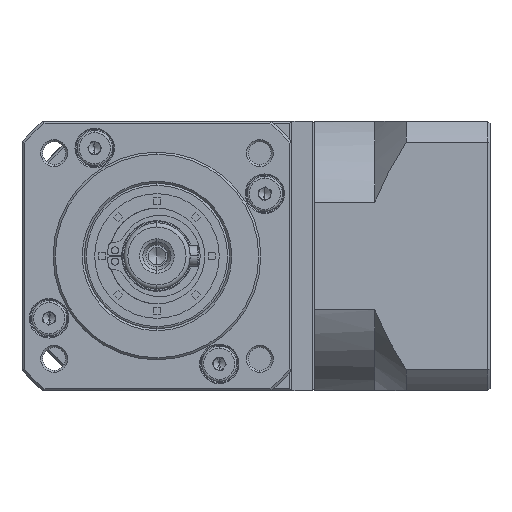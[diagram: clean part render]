
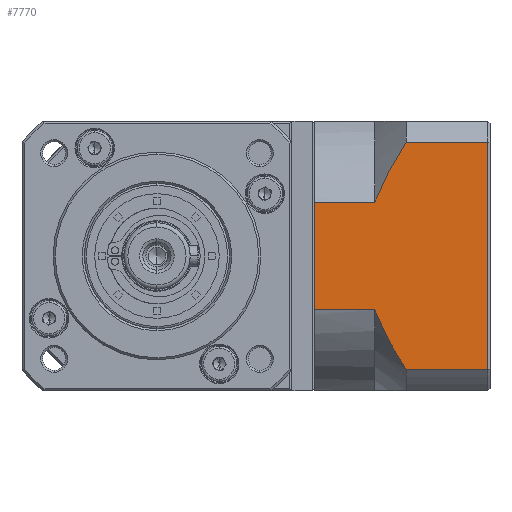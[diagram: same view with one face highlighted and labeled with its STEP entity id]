
A CAD part, left-side view. The second image highlights one B-rep face of the part: STEP entity #7770.
In plain terms, the highlighted planar face has unit normal (-1, 0, 0).
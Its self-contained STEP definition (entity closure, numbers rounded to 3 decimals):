
#7116 = CARTESIAN_POINT ( 'NONE',  ( -21.287, -85.487, -87.091 ) ) ;
#7136 = CARTESIAN_POINT ( 'NONE',  ( -21.287, -92.987, -141.863 ) ) ;
#7770 = ADVANCED_FACE ( 'NONE', ( #25730 ), #137054, .F. ) ;
#8525 = CARTESIAN_POINT ( 'NONE',  ( -21.287, -92.254, -88.229 ) ) ;
#9399 = CARTESIAN_POINT ( 'NONE',  ( -21.287, -86.504, -130.01 ) ) ;
#11839 = CARTESIAN_POINT ( 'NONE',  ( -21.287, -70.987, -127.467 ) ) ;
#22314 = CARTESIAN_POINT ( 'NONE',  ( -21.287, -87.628, -132.488 ) ) ;
#23175 = LINE ( 'NONE', #135476, #87425 ) ;
#24961 = CARTESIAN_POINT ( 'NONE',  ( -21.287, -85.487, -141.863 ) ) ;
#25434 = LINE ( 'NONE', #7116, #127976 ) ;
#25730 = FACE_OUTER_BOUND ( 'NONE', #142670, .T. ) ;
#25871 = CARTESIAN_POINT ( 'NONE',  ( -21.287, -85.487, -101.487 ) ) ;
#31249 = DIRECTION ( 'NONE',  ( 0., 1., 0. ) ) ;
#32848 = LINE ( 'NONE', #106684, #66837 ) ;
#34282 = CARTESIAN_POINT ( 'NONE',  ( -21.287, -90.154, -91.715 ) ) ;
#34520 = VERTEX_POINT ( 'NONE', #60298 ) ;
#35139 = CARTESIAN_POINT ( 'NONE',  ( -21.287, -90.138, -137.281 ) ) ;
#44624 = AXIS2_PLACEMENT_3D ( 'NONE', #59961, #149772, #72894 ) ;
#46824 = ORIENTED_EDGE ( 'NONE', *, *, #142145, .F. ) ;
#47096 = CARTESIAN_POINT ( 'NONE',  ( -21.287, -87.574, -96.497 ) ) ;
#47442 = CARTESIAN_POINT ( 'NONE',  ( -21.287, -85.487, -127.467 ) ) ;
#48005 = CARTESIAN_POINT ( 'NONE',  ( -21.287, -92.987, -141.863 ) ) ;
#50468 = VERTEX_POINT ( 'NONE', #75100 ) ;
#54846 = B_SPLINE_CURVE_WITH_KNOTS ( 'NONE', 3,
 ( #72369, #8525, #111349, #34282, #124242, #47096, #137070, #59982 ),
 .UNSPECIFIED., .F., .F.,
 ( 4, 2, 2, 4 ),
 ( 0.058, 0.062, 0.066, 0.074 ),
 .UNSPECIFIED. ) ;
#54876 = CARTESIAN_POINT ( 'NONE',  ( -21.287, -85.487, -127.467 ) ) ;
#55427 = ORIENTED_EDGE ( 'NONE', *, *, #135832, .T. ) ;
#59030 = ORIENTED_EDGE ( 'NONE', *, *, #69472, .T. ) ;
#59961 = CARTESIAN_POINT ( 'NONE',  ( -21.287, -113.187, -146.977 ) ) ;
#59982 = CARTESIAN_POINT ( 'NONE',  ( -21.287, -85.487, -101.487 ) ) ;
#60298 = CARTESIAN_POINT ( 'NONE',  ( -21.287, -70.987, -101.487 ) ) ;
#66837 = VECTOR ( 'NONE', #80086, 1000. ) ;
#67915 = CARTESIAN_POINT ( 'NONE',  ( -21.287, -70.987, -146.977 ) ) ;
#69472 = EDGE_CURVE ( 'NONE', #108936, #50468, #23175, .T. ) ;
#72369 = CARTESIAN_POINT ( 'NONE',  ( -21.287, -92.987, -87.091 ) ) ;
#72894 = DIRECTION ( 'NONE',  ( 0., 1., 0. ) ) ;
#75100 = CARTESIAN_POINT ( 'NONE',  ( -21.287, -112.687, -87.091 ) ) ;
#77366 = ORIENTED_EDGE ( 'NONE', *, *, #123816, .F. ) ;
#80086 = DIRECTION ( 'NONE',  ( 0., -1., 0. ) ) ;
#81038 = VECTOR ( 'NONE', #93871, 1000. ) ;
#83900 = ORIENTED_EDGE ( 'NONE', *, *, #121222, .T. ) ;
#85827 = LINE ( 'NONE', #148468, #153975 ) ;
#86241 = CARTESIAN_POINT ( 'NONE',  ( -21.287, -85.978, -128.748 ) ) ;
#87425 = VECTOR ( 'NONE', #147629, 1000. ) ;
#90681 = VERTEX_POINT ( 'NONE', #7136 ) ;
#93809 = CARTESIAN_POINT ( 'NONE',  ( -21.287, -112.687, -141.863 ) ) ;
#93871 = DIRECTION ( 'NONE',  ( 0., 0., -1. ) ) ;
#99256 = CARTESIAN_POINT ( 'NONE',  ( -21.287, -86.778, -130.634 ) ) ;
#102880 = VERTEX_POINT ( 'NONE', #130945 ) ;
#106684 = CARTESIAN_POINT ( 'NONE',  ( -21.287, -85.487, -101.487 ) ) ;
#108936 = VERTEX_POINT ( 'NONE', #93809 ) ;
#109955 = DIRECTION ( 'NONE',  ( 0., -1., 0. ) ) ;
#111349 = CARTESIAN_POINT ( 'NONE',  ( -21.287, -91.539, -89.38 ) ) ;
#112246 = CARTESIAN_POINT ( 'NONE',  ( -21.287, -88.233, -133.7 ) ) ;
#113261 = VERTEX_POINT ( 'NONE', #11839 ) ;
#114021 = ORIENTED_EDGE ( 'NONE', *, *, #151089, .F. ) ;
#115380 = LINE ( 'NONE', #67915, #81038 ) ;
#117083 = VERTEX_POINT ( 'NONE', #25871 ) ;
#117608 = LINE ( 'NONE', #24961, #147517 ) ;
#121222 = EDGE_CURVE ( 'NONE', #127070, #90681, #162129, .T. ) ;
#123816 = EDGE_CURVE ( 'NONE', #34520, #117083, #32848, .T. ) ;
#124242 = CARTESIAN_POINT ( 'NONE',  ( -21.287, -89.484, -92.901 ) ) ;
#124579 = CARTESIAN_POINT ( 'NONE',  ( -21.287, -85.726, -128.109 ) ) ;
#125136 = CARTESIAN_POINT ( 'NONE',  ( -21.287, -91.526, -139.595 ) ) ;
#127070 = VERTEX_POINT ( 'NONE', #54876 ) ;
#127770 = DIRECTION ( 'NONE',  ( 0., 1., 0. ) ) ;
#127976 = VECTOR ( 'NONE', #109955, 1000. ) ;
#130945 = CARTESIAN_POINT ( 'NONE',  ( -21.287, -92.987, -87.091 ) ) ;
#135476 = CARTESIAN_POINT ( 'NONE',  ( -21.287, -112.687, -146.977 ) ) ;
#135832 = EDGE_CURVE ( 'NONE', #34520, #113261, #115380, .T. ) ;
#137054 = PLANE ( 'NONE',  #44624 ) ;
#137070 = CARTESIAN_POINT ( 'NONE',  ( -21.287, -86.429, -98.949 ) ) ;
#142145 = EDGE_CURVE ( 'NONE', #108936, #90681, #117608, .T. ) ;
#142670 = EDGE_LOOP ( 'NONE', ( #46824, #59030, #151504, #155600, #77366, #55427, #114021, #83900 ) ) ;
#147517 = VECTOR ( 'NONE', #127770, 1000. ) ;
#147629 = DIRECTION ( 'NONE',  ( 0., 0., 1. ) ) ;
#148468 = CARTESIAN_POINT ( 'NONE',  ( -21.287, -85.487, -127.467 ) ) ;
#149772 = DIRECTION ( 'NONE',  ( 1., 0., 0. ) ) ;
#151089 = EDGE_CURVE ( 'NONE', #127070, #113261, #85827, .T. ) ;
#151504 = ORIENTED_EDGE ( 'NONE', *, *, #164271, .F. ) ;
#153975 = VECTOR ( 'NONE', #31249, 1000. ) ;
#155600 = ORIENTED_EDGE ( 'NONE', *, *, #165924, .T. ) ;
#162129 = B_SPLINE_CURVE_WITH_KNOTS ( 'NONE', 3,
 ( #47442, #124579, #86241, #9399, #99256, #22314, #112246, #35139, #125136, #48005 ),
 .UNSPECIFIED., .F., .F.,
 ( 4, 2, 2, 2, 4 ),
 ( 0.101, 0.103, 0.105, 0.109, 0.117 ),
 .UNSPECIFIED. ) ;
#164271 = EDGE_CURVE ( 'NONE', #102880, #50468, #25434, .T. ) ;
#165924 = EDGE_CURVE ( 'NONE', #102880, #117083, #54846, .T. ) ;
